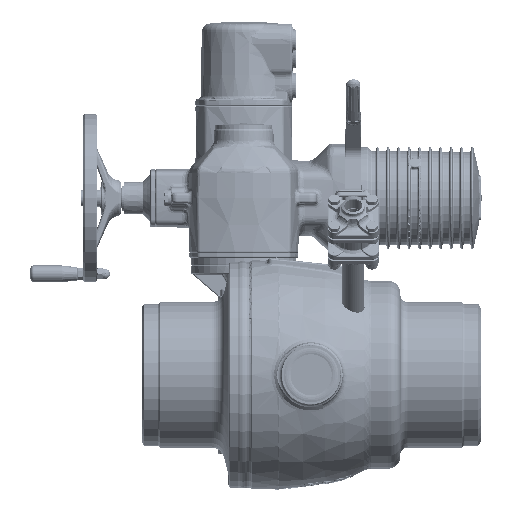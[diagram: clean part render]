
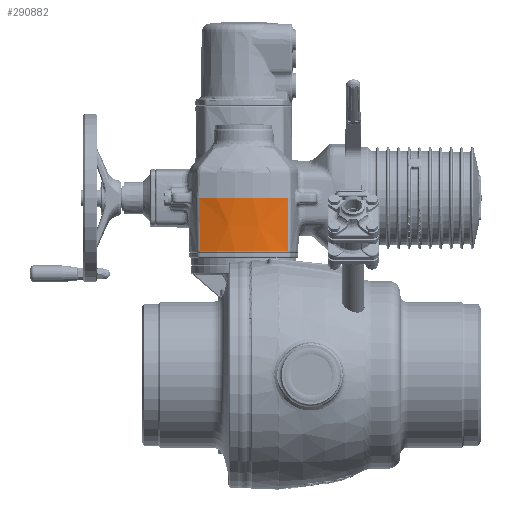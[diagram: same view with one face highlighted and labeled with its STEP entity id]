
A CAD part, front view. The second image highlights one B-rep face of the part: STEP entity #290882.
In plain terms, the highlighted conical face has half-angle 1 degrees and reference radius 150.639 mm.
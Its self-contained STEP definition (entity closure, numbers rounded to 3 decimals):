
#246081=CARTESIAN_POINT('',(85.001,0.,
0.));
#246082=DIRECTION('',(0.,0.,-1.));
#246083=DIRECTION('',(-0.936,-0.351,0.));
#246084=AXIS2_PLACEMENT_3D('',#246081,#246082,#246083);
#246098=CARTESIAN_POINT('',(-56.571,-53.06,
0.));
#246105=CARTESIAN_POINT('',(-56.571,53.059,
0.));
#246106=CARTESIAN_POINT('',(-56.477,52.961,
-7.018));
#246107=CARTESIAN_POINT('',(-56.289,52.768,
-21.03));
#246108=CARTESIAN_POINT('',(-56.004,52.473,
-41.977));
#246109=CARTESIAN_POINT('',(-55.818,52.283,
-55.895));
#246110=CARTESIAN_POINT('',(-55.724,52.186,
-62.843));
#246112=CARTESIAN_POINT('',(-55.725,-52.186,
-62.843));
#246113=CARTESIAN_POINT('',(-55.818,-52.283,
-55.897));
#246114=CARTESIAN_POINT('',(-56.004,-52.473,
-41.98));
#246115=CARTESIAN_POINT('',(-56.291,-52.77,
-20.842));
#246116=CARTESIAN_POINT('',(-56.478,-52.964,
-6.936));
#246117=CARTESIAN_POINT('',(-56.571,-53.06,
0.));
#246124=CARTESIAN_POINT('',(-55.724,52.186,
-62.843));
#246139=CARTESIAN_POINT('',(85.001,0.,
-62.843));
#246140=DIRECTION('',(0.,0.,1.));
#246141=DIRECTION('',(-0.938,0.348,0.));
#246142=AXIS2_PLACEMENT_3D('',#246139,#246140,#246141);
#246157=CARTESIAN_POINT('',(-55.725,-52.186,
-62.843));
#246262=CARTESIAN_POINT('',(-56.573,53.06,
0.));
#274584=VERTEX_POINT('',#246098);
#274605=VERTEX_POINT('',#246157);
#275078=VERTEX_POINT('',#246124);
#275138=VERTEX_POINT('',#246262);
#290869=CARTESIAN_POINT('',(85.001,0.,
-31.421));
#290870=DIRECTION('',(0.,0.,1.));
#290871=DIRECTION('',(1.,0.,0.));
#290872=AXIS2_PLACEMENT_3D('',#290869,#290870,#290871);
#290873=CONICAL_SURFACE('',#290872,150.639,1.);
#290875=ORIENTED_EDGE('',*,*,#290874,.F.);
#290877=ORIENTED_EDGE('',*,*,#290876,.F.);
#290878=ORIENTED_EDGE('',*,*,#290859,.F.);
#290879=ORIENTED_EDGE('',*,*,#290828,.F.);
#290880=EDGE_LOOP('',(#290875,#290877,#290878,#290879));
#290881=FACE_OUTER_BOUND('',#290880,.F.);
#290882=ADVANCED_FACE('',(#290881),#290873,.T.);
#246085=CIRCLE('',#246084,151.188);
#246111=B_SPLINE_CURVE_WITH_KNOTS('',3,(#246105,#246106,#246107,#246108,#246109,
#246110),.UNSPECIFIED.,.F.,.F.,(4,1,1,4),(0.,0.333,
0.667,1.),.UNSPECIFIED.);
#246118=B_SPLINE_CURVE_WITH_KNOTS('',3,(#246112,#246113,#246114,#246115,#246116,
#246117),.UNSPECIFIED.,.F.,.F.,(4,1,1,4),(0.,0.333,
0.667,1.),.UNSPECIFIED.);
#246143=CIRCLE('',#246142,150.091);
#290828=EDGE_CURVE('',#274605,#274584,#246118,.T.);
#290859=EDGE_CURVE('',#274584,#275138,#246085,.T.);
#290874=EDGE_CURVE('',#275078,#274605,#246143,.T.);
#290876=EDGE_CURVE('',#275138,#275078,#246111,.T.);
